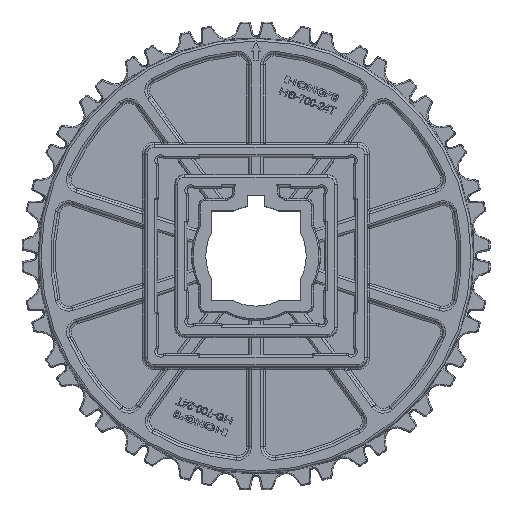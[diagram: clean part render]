
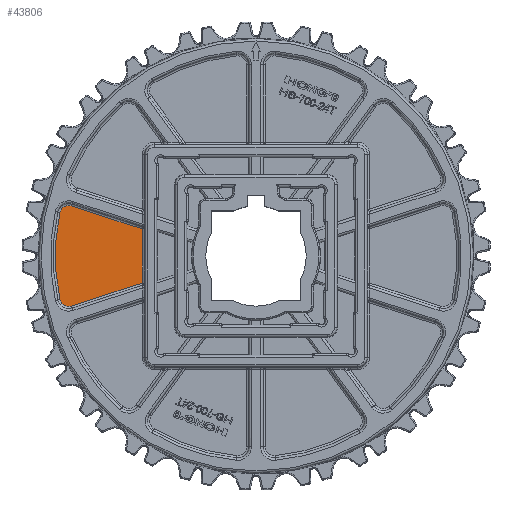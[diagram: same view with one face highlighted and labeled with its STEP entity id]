
A CAD part, top view. The second image highlights one B-rep face of the part: STEP entity #43806.
In plain terms, the highlighted planar face has unit normal (0, 0, 1).
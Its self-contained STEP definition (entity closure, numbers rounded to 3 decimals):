
#29661=PLANE('',#92212);
#30953=CIRCLE('',#92209,4.017);
#30954=CIRCLE('',#92210,90.017);
#30955=CIRCLE('',#92211,4.017);
#34707=LINE('',#121625,#39185);
#34708=LINE('',#121628,#39186);
#34709=LINE('',#121630,#39187);
#39185=VECTOR('',#100236,1.);
#39186=VECTOR('',#100237,1.);
#39187=VECTOR('',#100238,1.);
#43806=ADVANCED_FACE('',(#48260),#29661,.F.);
#48260=FACE_OUTER_BOUND('',#52150,.T.);
#52150=EDGE_LOOP('',(#57724,#57725,#57726,#57727,#57728,#57729));
#57724=ORIENTED_EDGE('',*,*,#81910,.T.);
#57725=ORIENTED_EDGE('',*,*,#81911,.T.);
#57726=ORIENTED_EDGE('',*,*,#81912,.T.);
#57727=ORIENTED_EDGE('',*,*,#81913,.T.);
#57728=ORIENTED_EDGE('',*,*,#81914,.T.);
#57729=ORIENTED_EDGE('',*,*,#81915,.T.);
#75840=VERTEX_POINT('',#121626);
#75841=VERTEX_POINT('',#121627);
#75842=VERTEX_POINT('',#121629);
#75843=VERTEX_POINT('',#121631);
#75844=VERTEX_POINT('',#121633);
#75845=VERTEX_POINT('',#121635);
#81910=EDGE_CURVE('',#75840,#75841,#34707,.T.);
#81911=EDGE_CURVE('',#75841,#75842,#34708,.T.);
#81912=EDGE_CURVE('',#75842,#75843,#34709,.T.);
#81913=EDGE_CURVE('',#75843,#75844,#30953,.T.);
#81914=EDGE_CURVE('',#75844,#75845,#30954,.T.);
#81915=EDGE_CURVE('',#75845,#75840,#30955,.T.);
#92209=AXIS2_PLACEMENT_3D('',#121632,#100239,#100240);
#92210=AXIS2_PLACEMENT_3D('',#121634,#100241,#100242);
#92211=AXIS2_PLACEMENT_3D('',#121636,#100243,#100244);
#92212=AXIS2_PLACEMENT_3D('',#121637,#100245,#100246);
#100236=DIRECTION('',(0.951,0.309,0.));
#100237=DIRECTION('',(0.,1.,0.));
#100238=DIRECTION('',(-0.951,0.309,0.));
#100239=DIRECTION('',(0.,0.,1.));
#100240=DIRECTION('',(-1.,0.,0.));
#100241=DIRECTION('',(0.,0.,1.));
#100242=DIRECTION('',(-1.,0.,0.));
#100243=DIRECTION('',(0.,0.,1.));
#100244=DIRECTION('',(-1.,0.,0.));
#100245=DIRECTION('',(0.,0.,-1.));
#100246=DIRECTION('',(0.,-1.,0.));
#121625=CARTESIAN_POINT('',(348.718,4.034,-15.2));
#121626=CARTESIAN_POINT('',(267.297,-22.421,-15.2));
#121627=CARTESIAN_POINT('',(299.017,-12.115,-15.2));
#121628=CARTESIAN_POINT('',(299.017,0.09,-15.2));
#121629=CARTESIAN_POINT('',(299.017,12.115,-15.2));
#121630=CARTESIAN_POINT('',(348.666,-4.017,-15.2));
#121631=CARTESIAN_POINT('',(267.26,22.433,-15.2));
#121632=CARTESIAN_POINT('',(266.018,18.613,-15.2));
#121633=CARTESIAN_POINT('',(262.095,19.478,-15.2));
#121634=CARTESIAN_POINT('',(350.,0.09,-15.2));
#121635=CARTESIAN_POINT('',(262.134,-19.474,-15.2));
#121636=CARTESIAN_POINT('',(266.056,-18.601,-15.2));
#121637=CARTESIAN_POINT('',(350.,0.09,-15.2));
